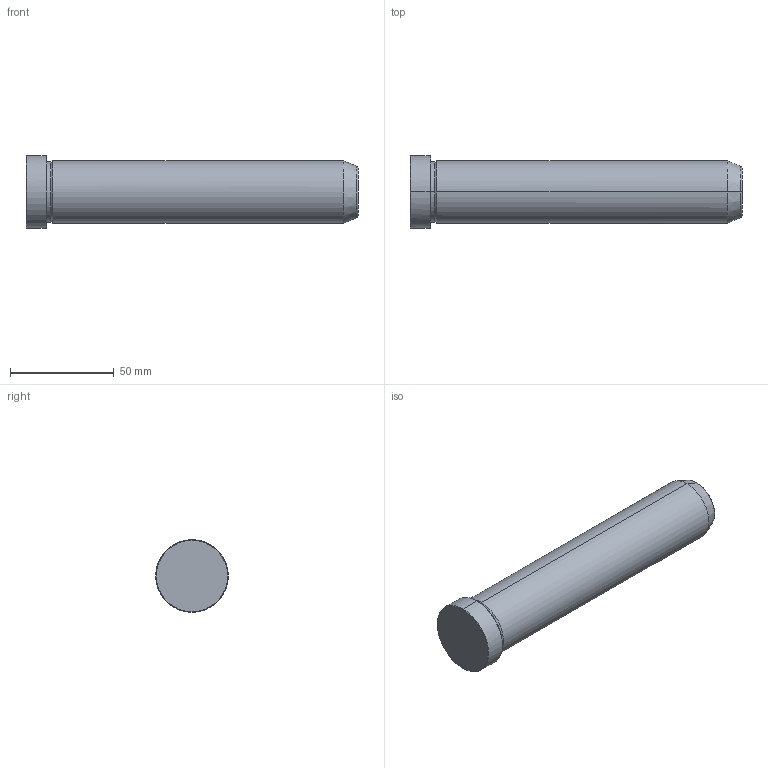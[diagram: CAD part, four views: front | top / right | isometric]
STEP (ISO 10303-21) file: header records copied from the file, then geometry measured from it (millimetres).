
FILE_DESCRIPTION(('CATIA V5 STEP Exchange'),'2;1');
FILE_NAME('C:\Users\Utente\Desktop\IO LAVORO\3D X SITO CF\X SITO\PLASTICA\549\549-30X160.stp','2021-12-17T19:33:21+00:00',('none'),('none'),'CATIA Version 5 Release 20 GA (IN-10)','CATIA V5 STEP AP203','none');
FILE_SCHEMA(('CONFIG_CONTROL_DESIGN'));
Length unit declared in the file: millimetre
Products named in the file (1): 549-30X160
Bounding box: 160 x 35 x 35 mm (x, y, z)
Volume: 114646.7 mm3; surface area: 16903.9 mm2
Topology: 1 solids, 1 shells, 19 faces, 56 edges, 40 vertices
Faces by surface type: cone 8, cylinder 6, plane 3, torus 2
Entity records: 736 total; most frequent: CARTESIAN_POINT 192, ORIENTED_EDGE 112, DIRECTION 86, EDGE_CURVE 56, AXIS2_PLACEMENT_3D 54, VERTEX_POINT 40, CIRCLE 34, EDGE_LOOP 20
